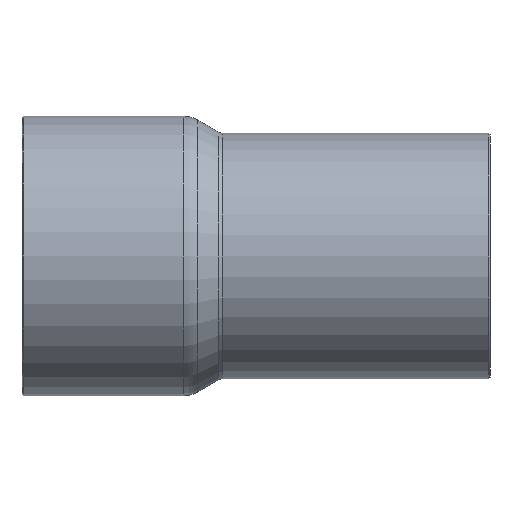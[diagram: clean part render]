
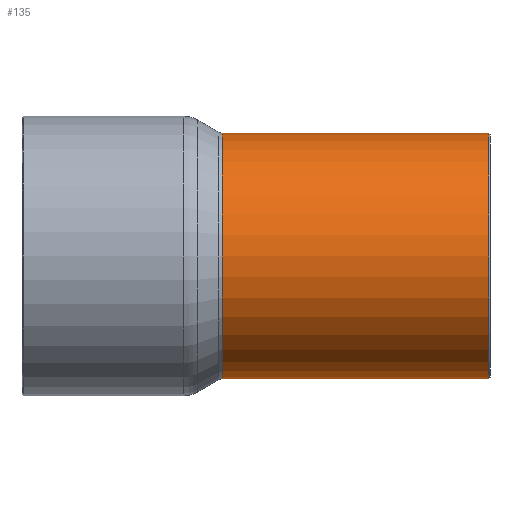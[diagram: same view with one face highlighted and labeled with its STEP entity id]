
A CAD part, front view. The second image highlights one B-rep face of the part: STEP entity #135.
In plain terms, the highlighted cylindrical face has radius 17.46 mm (diameter 34.92 mm), a full revolution.
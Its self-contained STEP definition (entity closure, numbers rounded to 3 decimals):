
#73=CARTESIAN_POINT('',(35.3,17.46,0.));
#74=VERTEX_POINT('',#73);
#75=CARTESIAN_POINT('',(35.3,0.0,0.0));
#76=DIRECTION('',(1.0,0.0,0.0));
#77=DIRECTION('',(0.0,-1.0,0.0));
#78=AXIS2_PLACEMENT_3D('',#75,#76,#77);
#79=CIRCLE('',#78,17.46);
#80=EDGE_CURVE('',#74,#74,#79,.T.);
#116=CARTESIAN_POINT('',(16.465,0.0,0.0));
#117=DIRECTION('',(1.0,0.0,0.0));
#118=DIRECTION('',(0.0,1.0,0.0));
#119=AXIS2_PLACEMENT_3D('',#116,#117,#118);
#120=CYLINDRICAL_SURFACE('',#119,17.46);
#121=CARTESIAN_POINT('',(-2.57,17.46,0.0));
#122=VERTEX_POINT('',#121);
#123=CARTESIAN_POINT('',(-2.57,0.0,0.0));
#124=DIRECTION('',(1.0,0.0,0.0));
#125=DIRECTION('',(0.0,1.0,0.0));
#126=AXIS2_PLACEMENT_3D('',#123,#124,#125);
#127=CIRCLE('',#126,17.46);
#128=EDGE_CURVE('',#122,#122,#127,.T.);
#129=ORIENTED_EDGE('',*,*,#128,.T.);
#130=EDGE_LOOP('',(#129));
#131=FACE_OUTER_BOUND('',#130,.T.);
#132=ORIENTED_EDGE('',*,*,#80,.F.);
#133=EDGE_LOOP('',(#132));
#134=FACE_BOUND('',#133,.T.);
#135=ADVANCED_FACE('',(#131,#134),#120,.T.);
